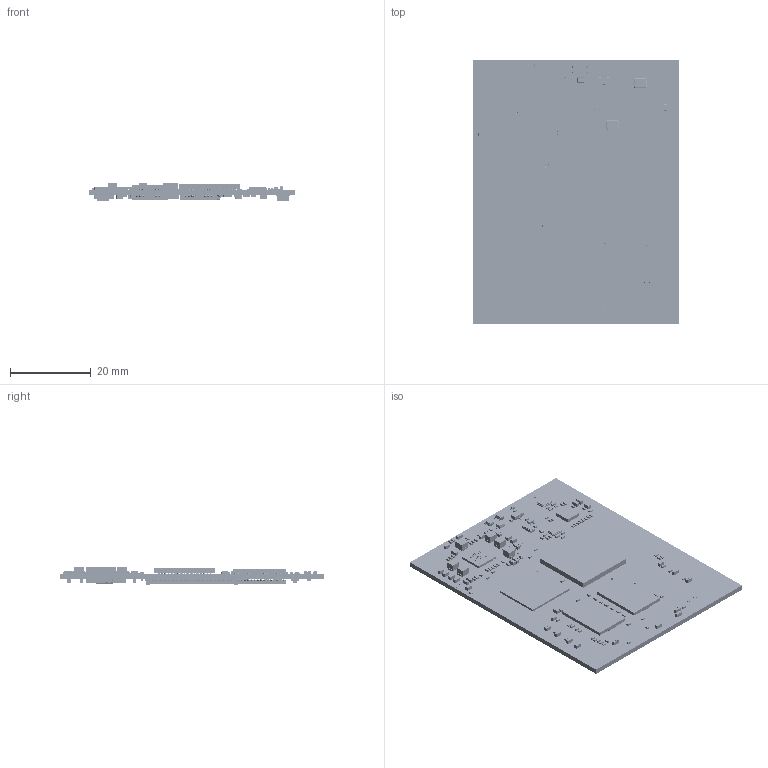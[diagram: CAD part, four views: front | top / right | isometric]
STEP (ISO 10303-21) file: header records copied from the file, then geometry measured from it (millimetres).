
FILE_DESCRIPTION(/* description */ ('PCB Design'),/* implementation_level */ '2;1');
FILE_NAME(/* name */ 'MINI507_RV2',/* time_stamp */ '2026-08-13T10:46:21+08:00',/* author */ (''),/* organization */ (''),/* preprocessor_version */ 'ST-DEVELOPER v16',/* originating_system */ 'allegro_17.2S053',/* authorisation */ '');
FILE_SCHEMA (('AUTOMOTIVE_DESIGN { 1 0 10303 214 3 1 1 }'));
Products named in the file (111): MINI507_RV2; BOARD_OUTLINE; COMPONENTS; MINI507_OUTLINE_65X51_M3; F_PADS; SOT_23; SOT_323; SOD323; DF40C-100DP-0_4V; TESTPOINT_35MIL; C0201; FBGA153_0P5_11P5X13; R0402; C0402; BGA96P80B1000_1400H120; BGA421P65B1500_1500H147; C0805; C0603; QFN53P40B600_600H75; LP200_250H120; TP30; L0603; TSSOP8_3R10X3R10X1R10; SOT-523; CRY2_6R90X1R40X1R30; CRY4_3R20X2R50X0R80; LED0603; QFN33P0_4B4X4; CircuitWorks-SOT-23; PTSP0003JA-A; 358337361; Board5; Free-Models4; Extruded6; Extruded7; 358339793; Board3; Extruded9; Extruded8; Board4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
Assembly tree (621 placements, depth 9):
  MINI507_RV2
    BOARD_OUTLINE
    COMPONENTS
      MINI507_OUTLINE_65X51_M3
      F_PADS  x6
      SOT_23
        CircuitWorks-SOT-23
      SOT_323  x2
        PTSP0003JA-A
      SOD323
        User Library-SOD-323F
          Free-Models3
            358337361
              Extruded8
            358337361
              Extruded8
            358337489
              Extruded6
            358338001
              Extruded7
            BODYSOD323F_3
              Free-Models4
                358340561
                  Extruded9
              Board4
            358337745
              Extruded11
            BODYSOD323F_4
              Board3
              Free-Models5
                358339793
                  Extruded10
            BODYSOD323F_3
              Free-Models4
                358340561
                  Extruded9
              Board4
            BODYSOD323F_4
              Board3
              Free-Models5
                358339793
                  Extruded10
          Board5
      DF40C-100DP-0_4V  x2
        7B1E262E-6BAF-4506-873E-E08FD8DB0EBC
      TESTPOINT_35MIL  x10
      C0201  x11
        User Library-User Library-0201_Cap
      FBGA153_0P5_11P5X13
        A3025639-B606-49D8-87C5-9FA25282E8C4
      R0402  x74
        0
        CR1005-04021
      C0402  x122
        0
        SC0402
      BGA96P80B1000_1400H120  x4
        E151E7CA-AB92-432B-8DBE-73B32B7F2097
      BGA421P65B1500_1500H147
        User Library-BGA(LFBGA)-217
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Bounding box: 51 x 65 x 4.46 mm (x, y, z)
Volume: 1271.5 mm3; surface area: 19599 mm2
Topology: 1618 solids, 2131 shells, 36859 faces, 82574 edges, 49100 vertices
Faces by surface type: bspline 28267, plane 6769, cylinder 1595, sphere 176, torus 28, cone 24
Entity records: 202894 total; most frequent: CARTESIAN_POINT 64104, ORIENTED_EDGE 25445, DIRECTION 20480, EDGE_CURVE 12735, VERTEX_POINT 8681, VECTOR 8029, LINE 8029, AXIS2_PLACEMENT_3D 6633
